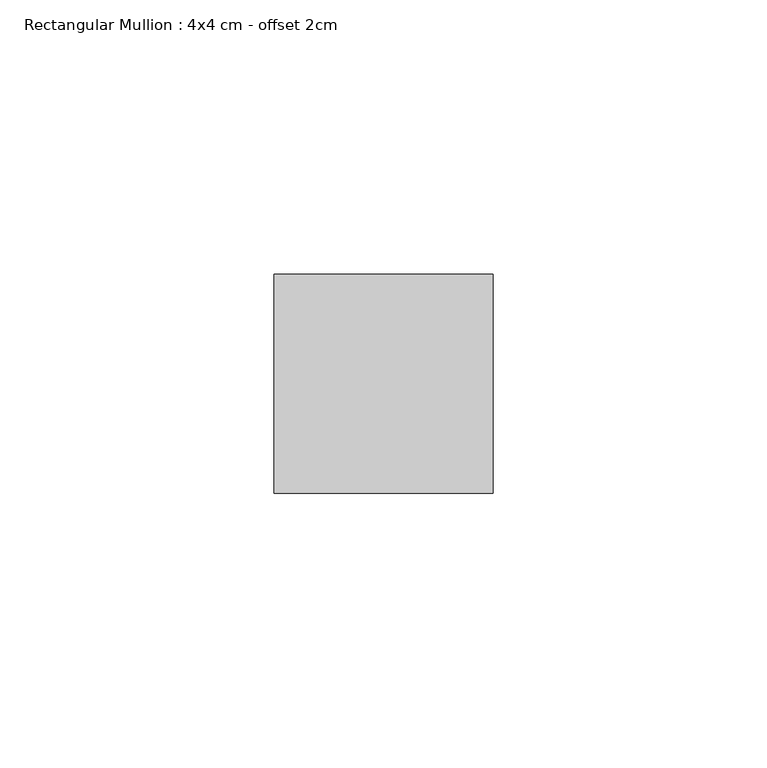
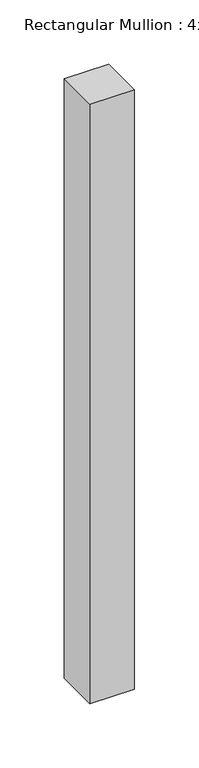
"""IFC4 building model written with IfcOpenShell, lengths in millimetres: member geometry, Rectangular Mullion : 4x4 cm - offset 2cm."""

from ifc_helpers import new_model, si_unit, frame, origin, place, context, project, spatial, polyline, outline, extrude, source, transform, mapped, element, save


def rectangular_mullion_4x4_cm_offset_2cm_a9974342(model_context):
    return source(origin(), model_context, "Body", "SweptSolid", [
        extrude(outline(polyline([(0.0, 0.0), (0.0, -40.0), (-40.0, -40.0), (-40.0, 0.0), (0.0, 0.0)])), frame((0.0, 0.0, -570.0), z_axis=(0.0, 0.0, 1.0), x_axis=(1.0, 0.0, 0.0)), (0.0, 0.0, 1.0), 570.0),
    ])


if __name__ == "__main__":
    model = new_model("IFC4")
    model_context = context("Model", 3, world=origin())
    ifc_project = project(units=[si_unit("LENGTHUNIT", "METRE", prefix="MILLI")], contexts=[model_context])
    site = spatial("IfcSite", under=ifc_project)
    building = spatial("IfcBuilding", under=site)
    placement = place(None, origin())
    rectangular_mullion_4x4_cm_offset_2cm_shape = rectangular_mullion_4x4_cm_offset_2cm_a9974342(model_context)
    element("IfcMember", 1, ObjectType="Rectangular Mullion : 4x4 cm - offset 2cm", at=placement, inside=building, context=model_context, shape_type="MappedRepresentation", body=[
        mapped(rectangular_mullion_4x4_cm_offset_2cm_shape, transform((0.0, 0.0, 0.0), x_axis=(1.0, 0.0, 0.0), y_axis=(0.0, 1.0, 0.0), z_axis=(0.0, 0.0, 1.0))),
    ])
    save(model, "model.ifc")
